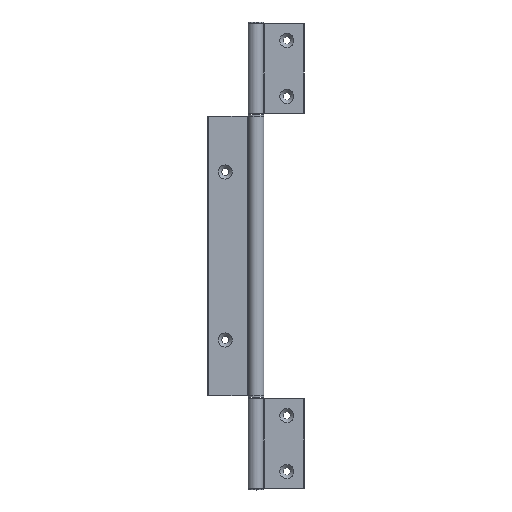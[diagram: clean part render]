
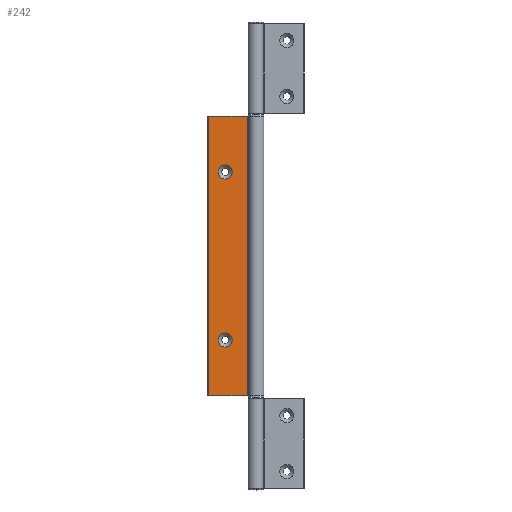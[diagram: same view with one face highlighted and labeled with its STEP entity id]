
A CAD part, top view. The second image highlights one B-rep face of the part: STEP entity #242.
In plain terms, the highlighted planar face has unit normal (0, 0, 1).
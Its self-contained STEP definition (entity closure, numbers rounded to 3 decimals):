
#242 = ADVANCED_FACE( '', ( #380, #381, #382 ), #383, .F. );
#380 = FACE_BOUND( '', #601, .T. );
#381 = FACE_BOUND( '', #602, .T. );
#382 = FACE_OUTER_BOUND( '', #603, .T. );
#383 = PLANE( '', #604 );
#601 = EDGE_LOOP( '', ( #1031 ) );
#602 = EDGE_LOOP( '', ( #1032 ) );
#603 = EDGE_LOOP( '', ( #1033, #1034, #1035, #1036 ) );
#604 = AXIS2_PLACEMENT_3D( '', #1037, #1038, #1039 );
#1031 = ORIENTED_EDGE( '', *, *, #1484, .F. );
#1032 = ORIENTED_EDGE( '', *, *, #1485, .F. );
#1033 = ORIENTED_EDGE( '', *, *, #1464, .T. );
#1034 = ORIENTED_EDGE( '', *, *, #1483, .F. );
#1035 = ORIENTED_EDGE( '', *, *, #1441, .F. );
#1036 = ORIENTED_EDGE( '', *, *, #1486, .T. );
#1037 = CARTESIAN_POINT( '', ( -42.5, 250., 1.25 ) );
#1038 = DIRECTION( '', ( 0., 0., -1. ) );
#1039 = DIRECTION( '', ( -1., 0., 0. ) );
#1441 = EDGE_CURVE( '', #1676, #1678, #1679, .T. );
#1464 = EDGE_CURVE( '', #1723, #1721, #1724, .T. );
#1483 = EDGE_CURVE( '', #1678, #1721, #1751, .T. );
#1484 = EDGE_CURVE( '', #1752, #1752, #1753, .T. );
#1485 = EDGE_CURVE( '', #1754, #1754, #1755, .T. );
#1486 = EDGE_CURVE( '', #1676, #1723, #1756, .T. );
#1676 = VERTEX_POINT( '', #2037 );
#1678 = VERTEX_POINT( '', #2039 );
#1679 = LINE( '', #2040, #2041 );
#1721 = VERTEX_POINT( '', #2094 );
#1723 = VERTEX_POINT( '', #2096 );
#1724 = LINE( '', #2097, #2098 );
#1751 = LINE( '', #2136, #2137 );
#1752 = VERTEX_POINT( '', #2138 );
#1753 = CIRCLE( '', #2139, 6.3 );
#1754 = VERTEX_POINT( '', #2140 );
#1755 = CIRCLE( '', #2141, 6.3 );
#1756 = LINE( '', #2142, #2143 );
#2037 = CARTESIAN_POINT( '', ( -42.5, 250., 1.25 ) );
#2039 = CARTESIAN_POINT( '', ( -7.677, 250., 1.25 ) );
#2040 = CARTESIAN_POINT( '', ( -42.5, 250., 1.25 ) );
#2041 = VECTOR( '', #2445, 1000. );
#2094 = CARTESIAN_POINT( '', ( -7.677, 0., 1.25 ) );
#2096 = CARTESIAN_POINT( '', ( -42.5, 0., 1.25 ) );
#2097 = CARTESIAN_POINT( '', ( -42.5, 0., 1.25 ) );
#2098 = VECTOR( '', #2490, 1000. );
#2136 = CARTESIAN_POINT( '', ( -7.677, 250., 1.25 ) );
#2137 = VECTOR( '', #2523, 1000. );
#2138 = CARTESIAN_POINT( '', ( -21.2, 200., 1.25 ) );
#2139 = AXIS2_PLACEMENT_3D( '', #2524, #2525, #2526 );
#2140 = CARTESIAN_POINT( '', ( -21.2, 50., 1.25 ) );
#2141 = AXIS2_PLACEMENT_3D( '', #2527, #2528, #2529 );
#2142 = CARTESIAN_POINT( '', ( -42.5, 250., 1.25 ) );
#2143 = VECTOR( '', #2530, 1000. );
#2445 = DIRECTION( '', ( 1., 0., 0. ) );
#2490 = DIRECTION( '', ( 1., 0., 0. ) );
#2523 = DIRECTION( '', ( 0., -1., 0. ) );
#2524 = CARTESIAN_POINT( '', ( -27.5, 200., 1.25 ) );
#2525 = DIRECTION( '', ( 0., 0., 1. ) );
#2526 = DIRECTION( '', ( 1., 0., 0. ) );
#2527 = CARTESIAN_POINT( '', ( -27.5, 50., 1.25 ) );
#2528 = DIRECTION( '', ( 0., 0., 1. ) );
#2529 = DIRECTION( '', ( 1., 0., 0. ) );
#2530 = DIRECTION( '', ( 0., -1., 0. ) );
